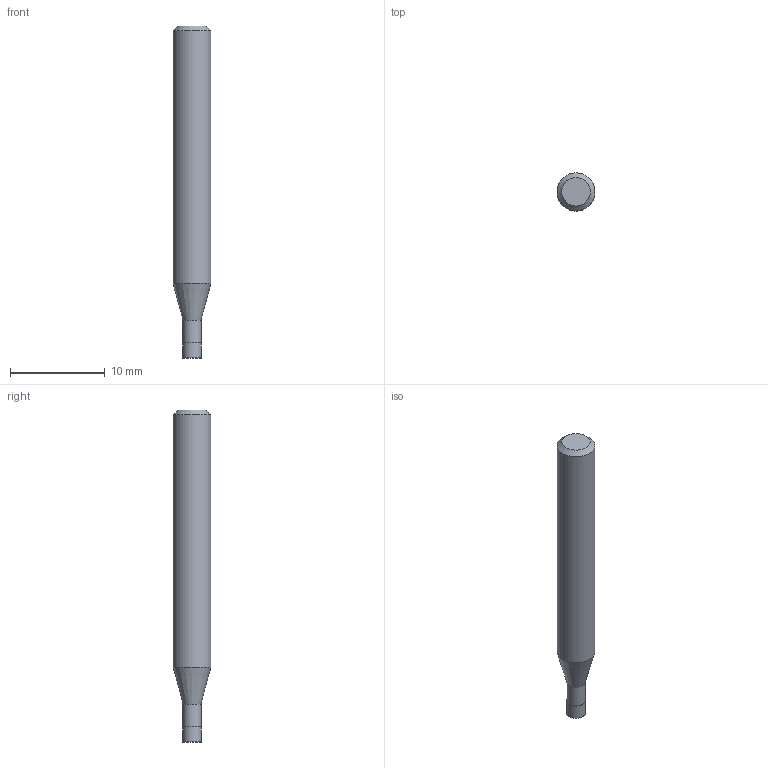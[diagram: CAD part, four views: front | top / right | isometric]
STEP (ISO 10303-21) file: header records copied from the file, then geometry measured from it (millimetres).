
FILE_DESCRIPTION((''),'2;1');
FILE_NAME('C:\Users\nsx150\AppData\Local\Temp\Mastercam 2021\80JYEHYUML\TEMP.step','2022-03-29T14:37:01',(''),(''),'STEP Write','Mastercam 2021 ... CNC Software, Inc.','');
FILE_SCHEMA(('AUTOMOTIVE_DESIGN'));
Length unit declared in the file: millimetre
Products named in the file (1): None
Bounding box: 4 x 4 x 35 mm (x, y, z)
Volume: 378.9 mm3; surface area: 420.1 mm2
Topology: 2 solids, 2 shells, 10 faces, 14 edges, 8 vertices
Faces by surface type: plane 4, cylinder 3, cone 2, torus 1
Full cylindrical faces by diameter (mm): 1.91 x1, 2 x1, 4 x1
Entity records: 232 total; most frequent: DIRECTION 40, CARTESIAN_POINT 28, AXIS2_PLACEMENT_3D 20, ORIENTED_EDGE 16, EDGE_LOOP 16, STYLED_ITEM 13, ADVANCED_FACE 10, FACE_BOUND 10
